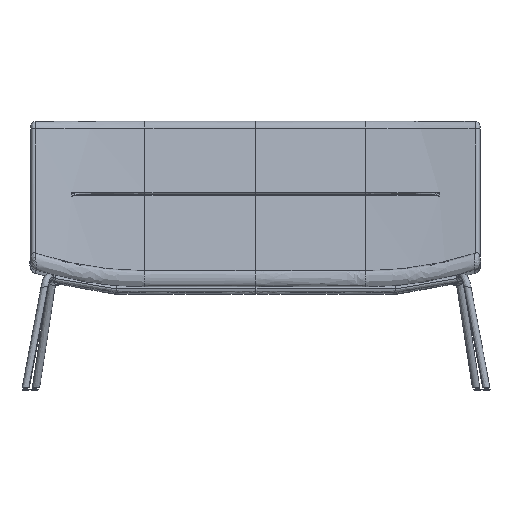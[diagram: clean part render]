
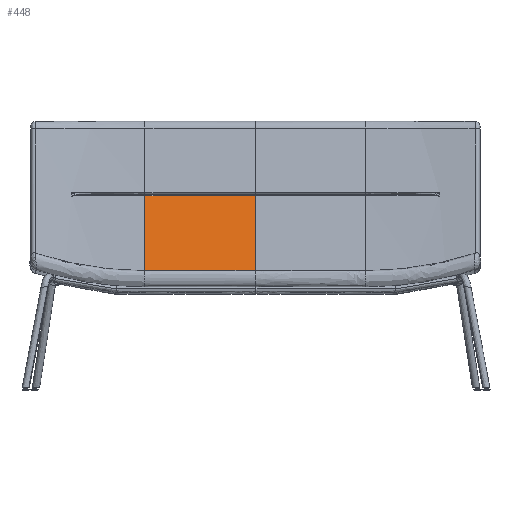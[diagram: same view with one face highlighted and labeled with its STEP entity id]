
A CAD part, front view. The second image highlights one B-rep face of the part: STEP entity #448.
In plain terms, the highlighted free-form (B-spline) face has degree [3, 5] with [6, 6] control points.
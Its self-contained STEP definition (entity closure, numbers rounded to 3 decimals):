
#448=ADVANCED_FACE('',(#692),#3724,.T.);
#692=FACE_OUTER_BOUND('',#954,.T.);
#954=EDGE_LOOP('',(#1883,#1884,#1885,#1886));
#1883=ORIENTED_EDGE('',*,*,#2552,.T.);
#1884=ORIENTED_EDGE('',*,*,#2523,.T.);
#1885=ORIENTED_EDGE('',*,*,#2530,.T.);
#1886=ORIENTED_EDGE('',*,*,#2529,.F.);
#2523=EDGE_CURVE('',#3485,#3466,#3089,.T.);
#2529=EDGE_CURVE('',#3487,#3488,#3095,.T.);
#2530=EDGE_CURVE('',#3466,#3488,#3096,.T.);
#2552=EDGE_CURVE('',#3487,#3485,#3118,.T.);
#3089=B_SPLINE_CURVE_WITH_KNOTS('',3,(#19601,#19602,#19603,#19604,#19605,
#19606),.UNSPECIFIED.,.F.,.F.,(4,2,4),(0.,200.703,226.76),
 .UNSPECIFIED.);
#3095=B_SPLINE_CURVE_WITH_KNOTS('',3,(#19649,#19650,#19651,#19652,#19653,
#19654),.UNSPECIFIED.,.F.,.F.,(4,2,4),(0.,200.703,226.76),
 .UNSPECIFIED.);
#3096=B_SPLINE_CURVE_WITH_KNOTS('',5,(#19655,#19656,#19657,#19658,#19659,
#19660),.UNSPECIFIED.,.F.,.F.,(6,6),(-654.445,-327.222),
 .UNSPECIFIED.);
#3118=B_SPLINE_CURVE_WITH_KNOTS('',5,(#20097,#20098,#20099,#20100,#20101,
#20102),.UNSPECIFIED.,.F.,.F.,(6,6),(327.222,654.445),
 .UNSPECIFIED.);
#3466=VERTEX_POINT('',#19024);
#3485=VERTEX_POINT('',#19043);
#3487=VERTEX_POINT('',#19045);
#3488=VERTEX_POINT('',#19046);
#3724=B_SPLINE_SURFACE_WITH_KNOTS('',3,5,((#12480,#12481,#12482,#12483,
#12484,#12485),(#12486,#12487,#12488,#12489,#12490,#12491),(#12492,#12493,
#12494,#12495,#12496,#12497),(#12498,#12499,#12500,#12501,#12502,#12503),
(#12504,#12505,#12506,#12507,#12508,#12509),(#12510,#12511,#12512,#12513,
#12514,#12515)),.UNSPECIFIED.,.F.,.F.,.F.,(4,2,4),(6,6),(-226.76,
-200.703,0.),(0.,654.445),.UNSPECIFIED.);
#12480=CARTESIAN_POINT('',(-12.518,573.51,577.183));
#12481=CARTESIAN_POINT('',(-38.695,573.509,577.183));
#12482=CARTESIAN_POINT('',(-64.873,573.112,577.261));
#12483=CARTESIAN_POINT('',(-614.606,573.114,577.261));
#12484=CARTESIAN_POINT('',(-640.784,573.51,577.183));
#12485=CARTESIAN_POINT('',(-666.962,573.51,577.183));
#12486=CARTESIAN_POINT('',(-12.518,571.837,568.66));
#12487=CARTESIAN_POINT('',(-38.695,571.836,568.66));
#12488=CARTESIAN_POINT('',(-64.873,571.44,568.738));
#12489=CARTESIAN_POINT('',(-614.606,571.442,568.737));
#12490=CARTESIAN_POINT('',(-640.784,571.838,568.66));
#12491=CARTESIAN_POINT('',(-666.962,571.837,568.66));
#12492=CARTESIAN_POINT('',(-12.518,570.164,560.137));
#12493=CARTESIAN_POINT('',(-38.695,570.164,560.137));
#12494=CARTESIAN_POINT('',(-64.873,569.768,560.215));
#12495=CARTESIAN_POINT('',(-614.606,569.77,560.214));
#12496=CARTESIAN_POINT('',(-640.784,570.165,560.137));
#12497=CARTESIAN_POINT('',(-666.962,570.164,560.137));
#12498=CARTESIAN_POINT('',(-12.518,555.607,485.965));
#12499=CARTESIAN_POINT('',(-38.695,555.606,485.965));
#12500=CARTESIAN_POINT('',(-64.873,555.215,486.042));
#12501=CARTESIAN_POINT('',(-614.606,555.218,486.041));
#12502=CARTESIAN_POINT('',(-640.784,555.607,485.965));
#12503=CARTESIAN_POINT('',(-666.962,555.607,485.965));
#12504=CARTESIAN_POINT('',(-12.518,542.722,420.317));
#12505=CARTESIAN_POINT('',(-38.695,542.722,420.317));
#12506=CARTESIAN_POINT('',(-64.873,542.335,420.393));
#12507=CARTESIAN_POINT('',(-614.606,542.337,420.392));
#12508=CARTESIAN_POINT('',(-640.784,542.723,420.316));
#12509=CARTESIAN_POINT('',(-666.962,542.722,420.317));
#12510=CARTESIAN_POINT('',(-12.518,529.838,354.668));
#12511=CARTESIAN_POINT('',(-38.695,529.837,354.668));
#12512=CARTESIAN_POINT('',(-64.873,529.455,354.743));
#12513=CARTESIAN_POINT('',(-614.606,529.457,354.743));
#12514=CARTESIAN_POINT('',(-640.784,529.838,354.668));
#12515=CARTESIAN_POINT('',(-666.962,529.838,354.668));
#19024=CARTESIAN_POINT('',(-666.962,573.51,577.183));
#19043=CARTESIAN_POINT('',(-666.962,529.838,354.668));
#19045=CARTESIAN_POINT('',(-339.74,529.599,354.715));
#19046=CARTESIAN_POINT('',(-339.74,573.262,577.232));
#19601=CARTESIAN_POINT('',(-666.962,529.838,354.668));
#19602=CARTESIAN_POINT('',(-666.962,542.722,420.317));
#19603=CARTESIAN_POINT('',(-666.962,555.607,485.965));
#19604=CARTESIAN_POINT('',(-666.962,570.164,560.137));
#19605=CARTESIAN_POINT('',(-666.962,571.837,568.66));
#19606=CARTESIAN_POINT('',(-666.962,573.51,577.183));
#19649=CARTESIAN_POINT('',(-339.74,529.599,354.715));
#19650=CARTESIAN_POINT('',(-339.74,542.481,420.364));
#19651=CARTESIAN_POINT('',(-339.74,555.363,486.013));
#19652=CARTESIAN_POINT('',(-339.74,569.917,560.185));
#19653=CARTESIAN_POINT('',(-339.74,571.589,568.708));
#19654=CARTESIAN_POINT('',(-339.74,573.262,577.232));
#19655=CARTESIAN_POINT('',(-666.962,573.51,577.183));
#19656=CARTESIAN_POINT('',(-653.873,573.51,577.183));
#19657=CARTESIAN_POINT('',(-640.784,573.411,577.202));
#19658=CARTESIAN_POINT('',(-562.251,573.312,577.222));
#19659=CARTESIAN_POINT('',(-450.995,573.262,577.232));
#19660=CARTESIAN_POINT('',(-339.74,573.262,577.232));
#20097=CARTESIAN_POINT('',(-339.74,529.599,354.715));
#20098=CARTESIAN_POINT('',(-450.995,529.599,354.715));
#20099=CARTESIAN_POINT('',(-562.251,529.647,354.705));
#20100=CARTESIAN_POINT('',(-640.784,529.743,354.687));
#20101=CARTESIAN_POINT('',(-653.873,529.838,354.668));
#20102=CARTESIAN_POINT('',(-666.962,529.838,354.668));
